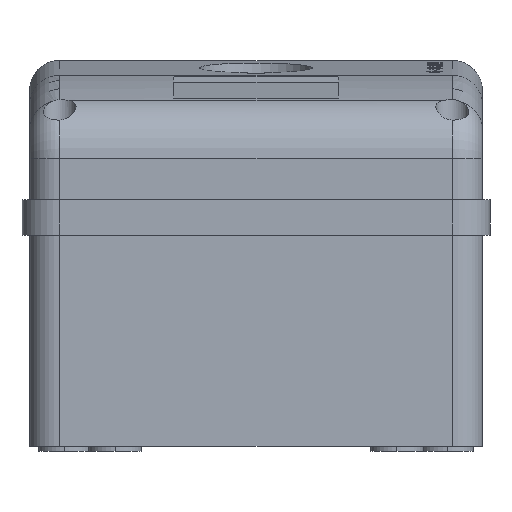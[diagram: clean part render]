
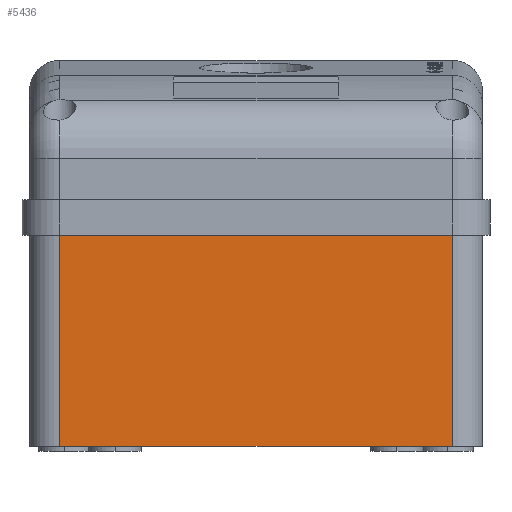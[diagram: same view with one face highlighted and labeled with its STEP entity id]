
A CAD part, left-side view. The second image highlights one B-rep face of the part: STEP entity #5436.
In plain terms, the highlighted planar face has unit normal (-1, 0, 0).
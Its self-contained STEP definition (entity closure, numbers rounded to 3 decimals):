
#21 = DIRECTION ( 'NONE',  ( 0., 0., -1. ) ) ;
#458 = EDGE_CURVE ( 'NONE', #2529, #921, #5839, .T. ) ;
#917 = FACE_OUTER_BOUND ( 'NONE', #10320, .T. ) ;
#921 = VERTEX_POINT ( 'NONE', #11597 ) ;
#1070 = AXIS2_PLACEMENT_3D ( 'NONE', #13973, #7292, #8563 ) ;
#1458 = CARTESIAN_POINT ( 'NONE',  ( -20., 39., 0. ) ) ;
#2247 = CARTESIAN_POINT ( 'NONE',  ( -20., 45., 0. ) ) ;
#2529 = VERTEX_POINT ( 'NONE', #11947 ) ;
#2612 = ORIENTED_EDGE ( 'NONE', *, *, #458, .T. ) ;
#3034 = CARTESIAN_POINT ( 'NONE',  ( -20., -39., 44. ) ) ;
#4999 = EDGE_CURVE ( 'NONE', #14984, #921, #16766, .T. ) ;
#5436 = ADVANCED_FACE ( 'NONE', ( #917 ), #11353, .F. ) ;
#5634 = CARTESIAN_POINT ( 'NONE',  ( -20., 39., 0. ) ) ;
#5839 = LINE ( 'NONE', #3034, #8596 ) ;
#6576 = ORIENTED_EDGE ( 'NONE', *, *, #4999, .F. ) ;
#7292 = DIRECTION ( 'NONE',  ( 1., 0., 0. ) ) ;
#8293 = DIRECTION ( 'NONE',  ( 0., 0., 1. ) ) ;
#8563 = DIRECTION ( 'NONE',  ( 0., 0., -1. ) ) ;
#8596 = VECTOR ( 'NONE', #8293, 1000. ) ;
#8773 = VECTOR ( 'NONE', #15490, 1000. ) ;
#9108 = VECTOR ( 'NONE', #21, 1000. ) ;
#9337 = EDGE_CURVE ( 'NONE', #14984, #15764, #14187, .T. ) ;
#10313 = CARTESIAN_POINT ( 'NONE',  ( -20., 45., 44. ) ) ;
#10320 = EDGE_LOOP ( 'NONE', ( #6576, #13898, #13933, #2612 ) ) ;
#10651 = VECTOR ( 'NONE', #13541, 1000. ) ;
#11353 = PLANE ( 'NONE',  #1070 ) ;
#11597 = CARTESIAN_POINT ( 'NONE',  ( -20., -39., 44. ) ) ;
#11947 = CARTESIAN_POINT ( 'NONE',  ( -20., -39., 0. ) ) ;
#13541 = DIRECTION ( 'NONE',  ( 0., -1., 0. ) ) ;
#13627 = LINE ( 'NONE', #2247, #10651 ) ;
#13898 = ORIENTED_EDGE ( 'NONE', *, *, #9337, .T. ) ;
#13933 = ORIENTED_EDGE ( 'NONE', *, *, #16192, .T. ) ;
#13973 = CARTESIAN_POINT ( 'NONE',  ( -20., 45., 0. ) ) ;
#14187 = LINE ( 'NONE', #1458, #9108 ) ;
#14984 = VERTEX_POINT ( 'NONE', #15105 ) ;
#15105 = CARTESIAN_POINT ( 'NONE',  ( -20., 39., 44. ) ) ;
#15490 = DIRECTION ( 'NONE',  ( 0., -1., 0. ) ) ;
#15764 = VERTEX_POINT ( 'NONE', #5634 ) ;
#16192 = EDGE_CURVE ( 'NONE', #15764, #2529, #13627, .T. ) ;
#16766 = LINE ( 'NONE', #10313, #8773 ) ;
